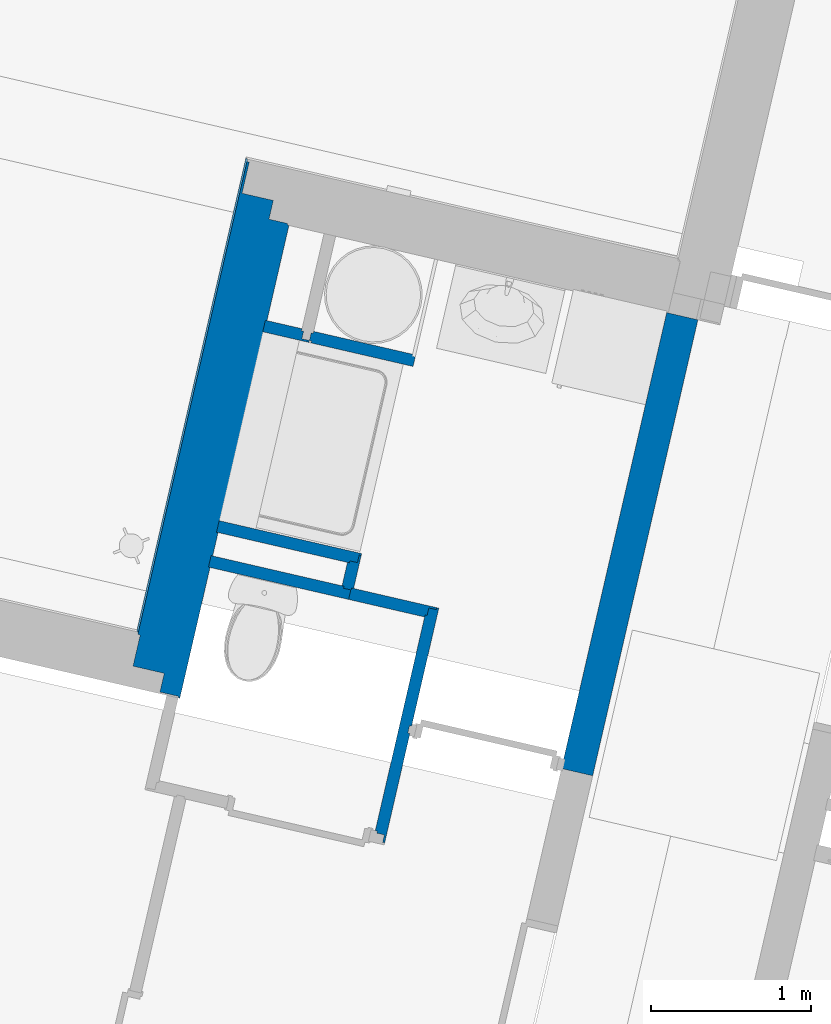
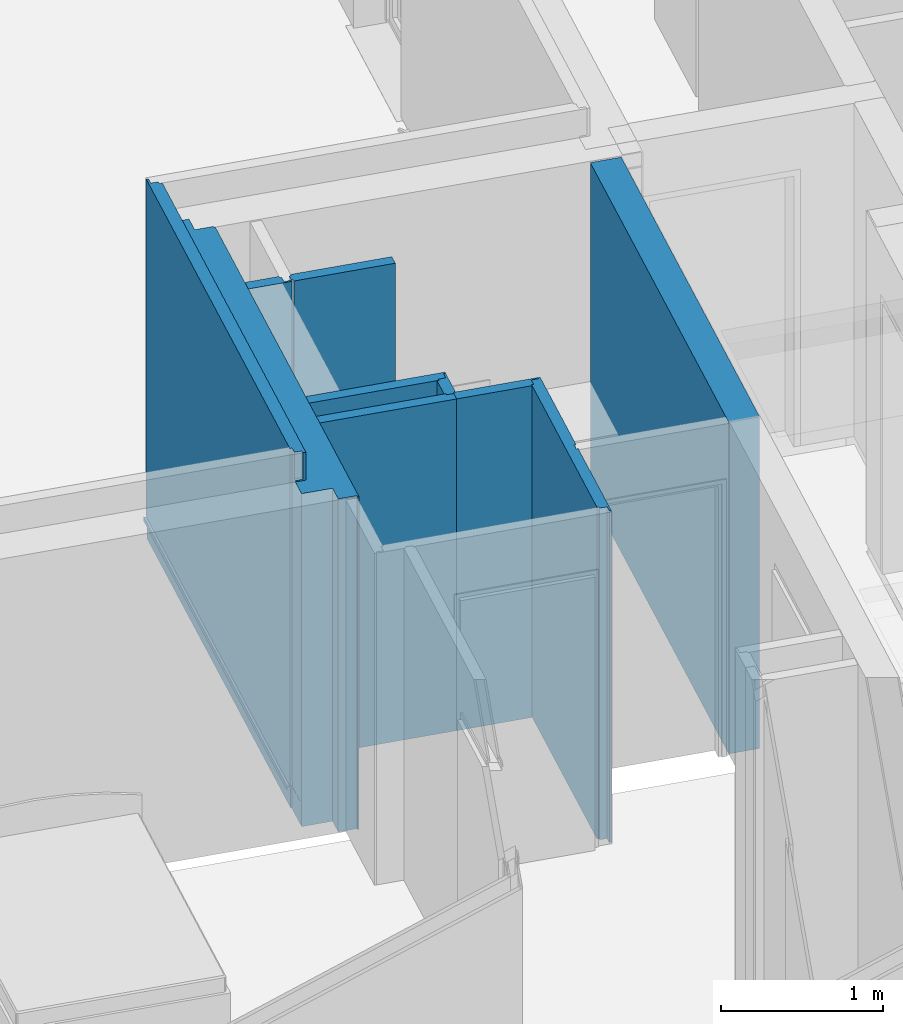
# One storey, part 51 of 119: 9 walls.
"""IFC2X3 building model written with IfcOpenShell, lengths in metres."""

from ifc_helpers import new_model, entity, si_unit, converted_unit, derived_unit, money_unit, direction, frame, origin_with_axes, place, context, subcontext, project, spatial, faceted_brep, material, material_list, type_object, element, save


model = new_model("IFC2X3")

# Units and contexts
model_context = context("Model", 3, precision=1e-05, world=origin_with_axes(), true_north=direction((0.0, 1.0)))
body_context = subcontext(model_context, "Body", "Model", "MODEL_VIEW")
ifc_project = project(units=[si_unit("LENGTHUNIT", "METRE"), si_unit("AREAUNIT", "SQUARE_METRE"), si_unit("VOLUMEUNIT", "CUBIC_METRE"), converted_unit("PLANEANGLEUNIT", "DEGREE", entity("IfcPlaneAngleMeasure", 0.0174532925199), si_unit("PLANEANGLEUNIT", "RADIAN"), dimensions=[0, 0, 0, 0, 0, 0, 0]), si_unit("SOLIDANGLEUNIT", "STERADIAN"), money_unit("EUR"), converted_unit("TIMEUNIT", "Year", entity("IfcTimeMeasure", 31556926.0), si_unit("TIMEUNIT", "SECOND"), dimensions=[0, 0, 1, 0, 0, 0, 0]), si_unit("MASSUNIT", "GRAM", prefix="KILO"), si_unit("THERMODYNAMICTEMPERATUREUNIT", "DEGREE_CELSIUS"), si_unit("LUMINOUSINTENSITYUNIT", "LUMEN"), si_unit("ENERGYUNIT", "JOULE", prefix="MEGA"), derived_unit("THERMALCONDUCTANCEUNIT", [(si_unit("POWERUNIT", "WATT"), 1), (si_unit("LENGTHUNIT", "METRE"), -1), (si_unit("THERMODYNAMICTEMPERATUREUNIT", "KELVIN"), -1)]), derived_unit("SPECIFICHEATCAPACITYUNIT", [(si_unit("ENERGYUNIT", "JOULE"), 1), (si_unit("MASSUNIT", "GRAM", prefix="KILO"), -1), (si_unit("THERMODYNAMICTEMPERATUREUNIT", "KELVIN"), -1)]), derived_unit("MASSDENSITYUNIT", [(si_unit("MASSUNIT", "GRAM", prefix="KILO"), 1), (si_unit("VOLUMEUNIT", "CUBIC_METRE"), -1)])], contexts=[model_context])

# Site, building, storey
site_placement = place(None, origin_with_axes())
site = spatial("IfcSite", under=ifc_project, at=site_placement, Name="Site", CompositionType="ELEMENT")
building_placement = place(site_placement, origin_with_axes())
building = spatial("IfcBuilding", under=site, at=building_placement, Name="Bâtiment", CompositionType="ELEMENT")
storey_placement = place(building_placement, origin_with_axes())
storey = spatial("IfcBuildingStorey", under=building, at=storey_placement, Name="Rez-de-chaussée", CompositionType="ELEMENT", Elevation=0.0)

# Walls
ifc_material_1 = material(Name="Finition int - Plaque de plâtre")
ifc_material_2 = material(Name="Isolation - Laine de roche")
ifc_material_list_1 = material_list([ifc_material_1, ifc_material_2, ifc_material_1])
wall_type_1 = type_object("IfcWallType", Name="3 - Cloison 72mm Placostil 74", PredefinedType="USERDEFINED")
wall_1_placement = place(storey_placement, frame((-9.85394506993, 11.1302860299, 0.0), z_axis=(0.0, 0.0, 1.0), x_axis=(-0.974387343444, 0.224876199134, 0.0)))
element("IfcWall", 1, at=wall_1_placement, inside=storey, type_object=wall_type_1, material=ifc_material_list_1, Name="Cloison Placostil 72/48", ObjectType="PARTITIONING", context=body_context, shape_type="Brep", body=[
    faceted_brep([(0.0, -0.013, 0.0), (0.654000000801, -0.013, 0.0), (0.654000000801, -0.0130000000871, 2.5), (0.0, -0.0130000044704, 2.5), (0.0, 0.0, 0.0), (0.654000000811, 0.0, 0.0), (0.654000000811, 0.0, 2.5), (0.0, 4.47035475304e-09, 2.5), (0.0, 4.47035475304e-09, 1.0)], [[[0, 1, 2, 3]], [[4, 5, 1, 0]], [[5, 6, 2, 1]], [[3, 2, 6, 7]], [[4, 0, 3, 7, 8]], [[7, 6, 5, 4, 8]]]),
    faceted_brep([(0.0, -0.061, 0.0), (0.667000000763, -0.061, 0.0), (0.667000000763, -0.0609999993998, 2.5), (0.0, -0.0609999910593, 2.5), (0.0, -0.013, 0.0), (0.667000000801, -0.013, 0.0), (0.667000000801, -0.013, 2.5), (0.0, -0.0130000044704, 2.5)], [[[0, 1, 2, 3]], [[4, 5, 1, 0]], [[5, 6, 2, 1]], [[3, 2, 6, 7]], [[4, 0, 3, 7]], [[7, 6, 5, 4]]]),
    faceted_brep([(0.0, -0.0609999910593, 2.5), (0.0, -0.0609999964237, 1.0), (0.0, -0.074, 1.0), (0.0, -0.074, 2.5), (0.0199999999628, -0.061, 0.0), (0.0199999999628, -0.0609999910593, 1.0), (0.654000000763, -0.0609999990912, 2.5), (0.654000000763, -0.061, 0.0), (0.0199999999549, -0.074, 1.0), (0.0199999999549, -0.074, 0.0), (0.654000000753, -0.074, 0.0), (0.654000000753, -0.074, 2.5)], [[[0, 1, 2, 3]], [[4, 5, 1, 0, 6, 7]], [[5, 8, 2, 1]], [[2, 8, 9, 10, 11, 3]], [[3, 11, 6, 0]], [[4, 9, 8, 5]], [[7, 6, 11, 10]], [[10, 9, 4, 7]]]),
])
wall_2_placement = place(storey_placement, frame((-9.69303099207, 9.6218678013, 0.0), z_axis=(0.0, 0.0, 1.0), x_axis=(-0.224876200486, -0.974387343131, 0.0)))
element("IfcWall", 2, at=wall_2_placement, inside=storey, type_object=wall_type_1, material=ifc_material_list_1, Name="Cloison Placostil 72/48", ObjectType="PARTITIONING", context=body_context, shape_type="Brep", body=[
    faceted_brep([(0.756000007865, -0.013, 2.5), (0.75600000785, 0.0, 2.5), (0.0, 0.0, 2.5), (1.65902847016e-10, -0.013, 2.5), (0.756000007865, -0.013, 0.0), (0.75600000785, 0.0, 0.0), (0.0, 0.0, 0.0), (1.65902847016e-10, -0.013, 0.0)], [[[0, 1, 2, 3]], [[1, 0, 4, 5]], [[1, 5, 6, 2]], [[7, 3, 2, 6]], [[4, 0, 3, 7]], [[5, 4, 7, 6]]]),
    faceted_brep([(1.50400001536, -0.013, 2.5), (1.50400001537, 0.0, 2.5), (0.80400000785, 0.0, 2.5), (0.804000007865, -0.013, 2.5), (1.50400001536, -0.013, 0.0), (1.50400001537, 0.0, 0.0), (0.80400000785, 0.0, 0.0), (0.804000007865, -0.013, 0.0)], [[[0, 1, 2, 3]], [[1, 0, 4, 5]], [[1, 5, 6, 2]], [[7, 3, 2, 6]], [[4, 0, 3, 7]], [[5, 4, 7, 6]]]),
    faceted_brep([(1.45600001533, -0.061, 2.5), (1.45600001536, -0.013, 2.5), (0.0130000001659, -0.013, 2.5), (0.0130000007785, -0.061, 2.5), (1.45600001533, -0.061, 0.0), (1.45600001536, -0.013, 0.0), (0.0130000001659, -0.013, 0.0), (0.0130000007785, -0.061, 0.0)], [[[0, 1, 2, 3]], [[1, 0, 4, 5]], [[1, 5, 6, 2]], [[7, 3, 2, 6]], [[4, 0, 3, 7]], [[5, 4, 7, 6]]]),
    faceted_brep([(1.44300001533, -0.074, 2.5), (1.44300001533, -0.061, 2.5), (0.0610000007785, -0.061, 2.5), (0.0610000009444, -0.074, 2.5), (1.44300001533, -0.074, 0.0), (1.44300001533, -0.061, 0.0), (0.0610000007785, -0.061, 0.0), (0.0610000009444, -0.074, 0.0)], [[[0, 1, 2, 3]], [[1, 0, 4, 5]], [[1, 5, 6, 2]], [[7, 3, 2, 6]], [[4, 0, 3, 7]], [[5, 4, 7, 6]]]),
])
wall_3_placement = place(storey_placement, frame((-10.2396622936, 9.74802334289, 0.0), z_axis=(0.0, 0.0, 1.0), x_axis=(0.974387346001, -0.224876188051, 0.0)))
element("IfcWall", 3, at=wall_3_placement, inside=storey, type_object=wall_type_1, material=ifc_material_list_1, Name="Cloison Placostil 72/48", ObjectType="PARTITIONING", context=body_context, shape_type="Brep", body=[
    faceted_brep([(0.548000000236, -0.013, 2.5), (0.548000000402, 0.0, 2.5), (0.00200000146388, 0.0, 2.5), (0.00200000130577, -0.013, 2.5), (0.548000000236, -0.013, 0.0), (0.548000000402, 0.0, 0.0), (0.00200000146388, 0.0, 0.0), (0.00200000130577, -0.013, 0.0)], [[[0, 1, 2, 3]], [[1, 0, 4, 5]], [[1, 5, 6, 2]], [[7, 3, 2, 6]], [[4, 0, 3, 7]], [[5, 4, 7, 6]]]),
    faceted_brep([(0.499999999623, -0.061, 2.5), (0.500000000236, -0.013, 2.5), (0.0, -0.013, 2.5), (0.0, -0.061, 2.5), (0.499999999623, -0.061, 0.0), (0.500000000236, -0.013, 0.0), (0.0, -0.013, 0.0), (0.0, -0.061, 0.0)], [[[0, 1, 2, 3]], [[1, 0, 4, 5]], [[1, 5, 6, 2]], [[7, 3, 2, 6]], [[4, 0, 3, 7]], [[5, 4, 7, 6]]]),
    faceted_brep([(0.486999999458, -0.074, 2.5), (0.486999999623, -0.061, 2.5), (0.0, -0.061, 2.5), (0.0, -0.074, 2.5), (0.486999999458, -0.074, 0.0), (0.486999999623, -0.061, 0.0), (0.0, -0.061, 0.0), (0.0, -0.074, 0.0)], [[[0, 1, 2, 3]], [[1, 0, 4, 5]], [[1, 5, 6, 2]], [[7, 3, 2, 6]], [[4, 0, 3, 7]], [[5, 4, 7, 6]]]),
])
ifc_material_3 = material(Name="Finition int - Enduit plâtre")
ifc_material_4 = material(Name="Béton")
ifc_material_list_2 = material_list([ifc_material_3, ifc_material_4, ifc_material_3])
wall_type_2 = type_object("IfcWallType", Name="2 - Murs Béton 18 + Enduit 2 Faces 200", PredefinedType="USERDEFINED")
wall_4_placement = place(storey_placement, frame((-8.26065721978, 11.4645550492, 0.0), z_axis=(0.0, 0.0, 1.0), x_axis=(-0.224876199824, -0.974387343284, 0.0)))
element("IfcWall", 4, at=wall_4_placement, inside=storey, type_object=wall_type_2, material=ifc_material_list_2, Name="M_Ext-009", ObjectType="SOLIDWALL", context=body_context, shape_type="Brep", body=[
    faceted_brep([(0.0, 0.19, 0.0), (2.92159791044, 0.19, 0.0), (2.92159791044, 0.18, 0.0), (0.0, 0.18, 0.0), (0.0, 0.19, 2.5), (2.92159791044, 0.19, 2.5), (2.92159791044, 0.18, 2.5), (0.0, 0.18, 2.5)], [[[0, 1, 2, 3]], [[4, 5, 1, 0]], [[2, 1, 5, 6]], [[3, 2, 6, 7]], [[4, 0, 3, 7]], [[7, 6, 5, 4]]]),
    faceted_brep([(0.0, 0.18, 0.0), (2.92159791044, 0.18, 0.0), (2.92159791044, 0.0, 0.0), (0.0, 0.0, 0.0), (0.0, 0.18, 2.5), (2.92159791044, 0.18, 2.5), (2.92159791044, 0.0, 2.5), (0.0, 0.0, 2.5)], [[[0, 1, 2, 3]], [[4, 5, 1, 0]], [[2, 1, 5, 6]], [[3, 2, 6, 7]], [[4, 0, 3, 7]], [[7, 6, 5, 4]]]),
    faceted_brep([(0.0, 0.0, 0.0), (2.92159791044, 0.0, 0.0), (2.92159791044, -0.01, 0.0), (0.0, -0.01, 0.0), (0.0, 0.0, 2.5), (2.92159791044, 0.0, 2.5), (2.92159791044, -0.01, 2.5), (0.0, -0.01, 2.5)], [[[0, 1, 2, 3]], [[4, 5, 1, 0]], [[2, 1, 5, 6]], [[3, 2, 6, 7]], [[4, 0, 3, 7]], [[7, 6, 5, 4]]]),
])
wall_type_3 = type_object("IfcWallType", Name="3 - Cloison Gaine Technique 72mm 74", PredefinedType="USERDEFINED")
wall_5_placement = place(storey_placement, frame((-10.4911943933, 11.2773550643, 0.0), z_axis=(0.0, 0.0, 1.0), x_axis=(-0.974387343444, 0.224876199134, 0.0)))
element("IfcWall", 5, at=wall_5_placement, inside=storey, type_object=wall_type_3, material=ifc_material_list_1, Name="Cloison Placostil 72/48", ObjectType="PARTITIONING", context=body_context, shape_type="Brep", body=[
    faceted_brep([(0.013, 0.0, 2.5), (0.0129999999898, -0.013, 2.5), (0.309000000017, -0.013, 2.5), (0.309000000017, 0.0, 2.5), (0.013, 0.0, 0.0), (0.0129999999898, -0.013, 0.0), (0.309000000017, -0.013, 0.0), (0.309000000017, 0.0, 0.0)], [[[0, 1, 2, 3]], [[4, 5, 1, 0]], [[1, 5, 6, 2]], [[7, 3, 2, 6]], [[4, 0, 3, 7]], [[5, 4, 7, 6]]]),
    faceted_brep([(0.0609999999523, -0.061, 2.5), (0.309000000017, -0.061, 2.5), (0.309000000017, -0.013, 2.5), (0.0609999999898, -0.013, 2.5), (0.0609999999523, -0.061, 0.0), (0.309000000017, -0.061, 0.0), (0.309000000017, -0.013, 0.0), (0.0609999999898, -0.013, 0.0)], [[[0, 1, 2, 3]], [[4, 5, 1, 0]], [[2, 1, 5, 6]], [[3, 2, 6, 7]], [[4, 0, 3, 7]], [[7, 6, 5, 4]]]),
    faceted_brep([(0.0739999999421, -0.074, 2.5), (0.309000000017, -0.074, 2.5), (0.309000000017, -0.061, 2.5), (0.0739999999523, -0.061, 2.5), (0.0739999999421, -0.074, 0.0), (0.309000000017, -0.074, 0.0), (0.309000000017, -0.061, 0.0), (0.0739999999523, -0.061, 0.0)], [[[0, 1, 2, 3]], [[4, 5, 1, 0]], [[2, 1, 5, 6]], [[3, 2, 6, 7]], [[4, 0, 3, 7]], [[7, 6, 5, 4]]]),
])
wall_6_placement = place(storey_placement, frame((-10.1747646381, 9.96252115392, 0.0), z_axis=(0.0, 0.0, 1.0), x_axis=(-0.224876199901, -0.974387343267, 0.0)))
element("IfcWall", 6, at=wall_6_placement, inside=storey, type_object=wall_type_3, material=ifc_material_list_1, Name="Cloison Placostil 72/48", ObjectType="PARTITIONING", context=body_context, shape_type="Brep", body=[
    faceted_brep([(0.223597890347, -0.013, 2.5), (0.223597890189, 0.0, 2.5), (0.013, 0.0, 2.5), (0.0129999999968, -0.013, 2.5), (0.223597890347, -0.013, 0.0), (0.223597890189, 0.0, 0.0), (0.013, 0.0, 0.0), (0.0129999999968, -0.013, 0.0)], [[[0, 1, 2, 3]], [[1, 0, 4, 5]], [[1, 5, 6, 2]], [[7, 3, 2, 6]], [[4, 0, 3, 7]], [[5, 4, 7, 6]]]),
    faceted_brep([(0.23659789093, -0.061, 2.5), (0.236597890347, -0.013, 2.5), (0.0609999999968, -0.013, 2.5), (0.0609999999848, -0.061, 2.5), (0.23659789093, -0.061, 0.0), (0.236597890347, -0.013, 0.0), (0.0609999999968, -0.013, 0.0), (0.0609999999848, -0.061, 0.0)], [[[0, 1, 2, 3]], [[1, 0, 4, 5]], [[1, 5, 6, 2]], [[7, 3, 2, 6]], [[4, 0, 3, 7]], [[5, 4, 7, 6]]]),
    faceted_brep([(0.223597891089, -0.074, 2.5), (0.22359789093, -0.061, 2.5), (0.0739999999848, -0.061, 2.5), (0.0739999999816, -0.074, 2.5), (0.223597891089, -0.074, 0.0), (0.22359789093, -0.061, 0.0), (0.0739999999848, -0.061, 0.0), (0.0739999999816, -0.074, 0.0)], [[[0, 1, 2, 3]], [[1, 0, 4, 5]], [[1, 5, 6, 2]], [[7, 3, 2, 6]], [[4, 0, 3, 7]], [[5, 4, 7, 6]]]),
])
wall_7_placement = place(storey_placement, frame((-11.0643802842, 10.1678331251, 0.0), z_axis=(0.0, 0.0, 1.0), x_axis=(0.97438734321, -0.224876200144, 0.0)))
element("IfcWall", 7, at=wall_7_placement, inside=storey, type_object=wall_type_3, material=ifc_material_list_1, Name="Cloison Placostil 72/48", ObjectType="PARTITIONING", context=body_context, shape_type="Brep", body=[
    faceted_brep([(0.913000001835, -0.013, 2.5), (0.913000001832, 0.0, 2.5), (0.0, 0.0, 2.5), (0.0, -0.013, 2.5), (0.913000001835, -0.013, 0.0), (0.913000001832, 0.0, 0.0), (0.0, 0.0, 0.0), (0.0, -0.013, 0.0)], [[[0, 1, 2, 3]], [[1, 0, 4, 5]], [[1, 5, 6, 2]], [[7, 3, 2, 6]], [[4, 0, 3, 7]], [[5, 4, 7, 6]]]),
    faceted_brep([(0.900000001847, -0.061, 2.5), (0.900000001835, -0.013, 2.5), (0.0, -0.013, 2.5), (0.0, -0.061, 2.5), (0.900000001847, -0.061, 0.0), (0.900000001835, -0.013, 0.0), (0.0, -0.013, 0.0), (0.0, -0.061, 0.0)], [[[0, 1, 2, 3]], [[1, 0, 4, 5]], [[1, 5, 6, 2]], [[7, 3, 2, 6]], [[4, 0, 3, 7]], [[5, 4, 7, 6]]]),
    faceted_brep([(0.85200000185, -0.074, 2.5), (0.852000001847, -0.061, 2.5), (0.0, -0.061, 2.5), (0.0, -0.074, 2.5), (0.85200000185, -0.074, 0.0), (0.852000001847, -0.061, 0.0), (0.0, -0.061, 0.0), (0.0, -0.074, 0.0)], [[[0, 1, 2, 3]], [[1, 0, 4, 5]], [[1, 5, 6, 2]], [[7, 3, 2, 6]], [[4, 0, 3, 7]], [[5, 4, 7, 6]]]),
])
wall_8_placement = place(storey_placement, frame((-11.1146621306, 9.94996215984, 0.0), z_axis=(0.0, 0.0, 1.0), x_axis=(0.974387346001, -0.224876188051, 0.0)))
element("IfcWall", 8, at=wall_8_placement, inside=storey, type_object=wall_type_3, material=ifc_material_list_1, Name="Cloison Placostil 72/48", ObjectType="PARTITIONING", context=body_context, shape_type="Brep", body=[
    faceted_brep([(0.0, -0.013, 2.5), (0.89800000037, -0.013, 2.5), (0.89800000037, 0.0, 2.5), (0.0, 0.0, 2.5), (0.0, -0.013, 0.0), (0.89800000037, -0.013, 0.0), (0.89800000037, 0.0, 0.0), (0.0, 0.0, 0.0)], [[[0, 1, 2, 3]], [[4, 5, 1, 0]], [[2, 1, 5, 6]], [[3, 2, 6, 7]], [[4, 0, 3, 7]], [[7, 6, 5, 4]]]),
    faceted_brep([(0.0, -0.061, 2.5), (0.89800000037, -0.061, 2.5), (0.89800000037, -0.013, 2.5), (0.0, -0.013, 2.5), (0.0, -0.061, 0.0), (0.89800000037, -0.061, 0.0), (0.89800000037, -0.013, 0.0), (0.0, -0.013, 0.0)], [[[0, 1, 2, 3]], [[4, 5, 1, 0]], [[2, 1, 5, 6]], [[3, 2, 6, 7]], [[4, 0, 3, 7]], [[7, 6, 5, 4]]]),
    faceted_brep([(0.0, -0.074, 2.5), (0.89800000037, -0.074, 2.5), (0.89800000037, -0.061, 2.5), (0.0, -0.061, 2.5), (0.0, -0.074, 0.0), (0.89800000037, -0.074, 0.0), (0.89800000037, -0.061, 0.0), (0.0, -0.061, 0.0)], [[[0, 1, 2, 3]], [[4, 5, 1, 0]], [[2, 1, 5, 6]], [[3, 2, 6, 7]], [[4, 0, 3, 7]], [[7, 6, 5, 4]]]),
])
ifc_material_5 = material(Name="Isolation - Polystyrène extrudé")
ifc_material_6 = material(Name="Bloc ELITHERM")
ifc_material_7 = material(Name="Isolation - Polystyrène expansé")
ifc_material_8 = material(Name="Mortier")
ifc_material_9 = material(Name="Béton cellulaire")
ifc_material_10 = material(Name="Etanchéité - Bitume")
ifc_material_11 = material(Name="Finition ext - Crépis")
ifc_material_12 = material(Name="Métal - Aluminium")
ifc_material_list_3 = material_list([ifc_material_1, ifc_material_5, ifc_material_6, ifc_material_7, ifc_material_8, ifc_material_9, ifc_material_10, ifc_material_11, ifc_material_12])
wall_type_4 = type_object("IfcWallType", Name="Mur ALKERN + planelle 21 TERRASSE RDC 356 x 2720", PredefinedType="USERDEFINED")
wall_9_placement = place(storey_placement, frame((-10.8985449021, 12.4428088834, 0.0), z_axis=(0.0, 0.0, 1.0), x_axis=(-0.22487619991, -0.974387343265, 0.0)))
element("IfcWall", 9, at=wall_9_placement, inside=storey, type_object=wall_type_4, material=ifc_material_list_3, Name="Mue bloc ALKERN isolé", ObjectType="SOLIDWALL", context=body_context, shape_type="Brep", body=[
    faceted_brep([(3.39000001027, 0.350000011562, 2.50955002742), (0.359999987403, 0.350000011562, 2.50955001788), (0.359999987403, 0.350000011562, 0.207793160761), (0.359999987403, 0.350000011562, 0.176532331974), (0.359999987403, 0.350000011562, 0.169414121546), (0.359999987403, 0.350000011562, 0.160000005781), (0.359999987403, 0.350000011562, 0.133633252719), (0.359999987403, 0.350000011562, 0.0), (3.39000001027, 0.350000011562, 0.0), (2.2540000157, 0.350000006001, 2.2), (1.04400001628, 0.350000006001, 2.2), (1.04400001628, 0.350000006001, 2.5), (2.2540000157, 0.350000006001, 2.5), (3.39000001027, 0.359999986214, 2.50955002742), (0.359999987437, 0.359999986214, 2.50955001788), (0.359999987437, 0.359999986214, 0.207793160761), (0.359999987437, 0.359999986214, 0.176532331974), (0.359999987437, 0.359999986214, 0.169414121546), (0.359999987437, 0.359999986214, 0.160000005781), (0.359999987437, 0.359999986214, 0.133633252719), (0.359999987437, 0.359999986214, 0.0), (3.39000001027, 0.359999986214, 0.0), (2.2540000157, 0.359999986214, 2.2), (1.04400001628, 0.359999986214, 2.2), (1.04400001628, 0.359999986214, 2.5), (2.2540000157, 0.359999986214, 2.5)], [[[0, 1, 2, 3, 4, 5, 6, 7, 8], [9, 10, 11, 12]], [[13, 14, 1, 0]], [[2, 1, 14, 15]], [[3, 2, 15, 16]], [[4, 3, 16, 17]], [[18, 5, 4, 17]], [[19, 6, 5, 18]], [[19, 20, 7, 6]], [[8, 7, 20, 21]], [[13, 0, 8, 21]], [[22, 23, 10, 9]], [[23, 24, 11, 10]], [[24, 25, 12, 11]], [[25, 22, 9, 12]], [[16, 15, 14, 13, 21, 20, 19, 18, 17], [22, 25, 24, 23]]]),
    faceted_brep([(0.350000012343, 0.22999997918, 2.50955001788), (3.38000001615, 0.22999997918, 2.50955001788), (3.38000001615, 0.350000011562, 2.50955001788), (0.350000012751, 0.350000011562, 2.50955001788), (3.38000001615, 0.22999997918, 0.176532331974), (3.38000001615, 0.22999997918, 0.207793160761), (0.350000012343, 0.22999997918, 0.207793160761), (0.350000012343, 0.22999997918, 0.176532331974), (0.350000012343, 0.22999997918, 0.169414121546), (0.350000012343, 0.22999997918, 0.160000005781), (0.350000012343, 0.22999997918, 0.133633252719), (0.350000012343, 0.22999997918, 0.0), (3.38000001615, 0.22999997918, 0.0), (3.38000001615, 0.22999997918, 0.133633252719), (3.38000001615, 0.22999997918, 0.160000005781), (3.38000001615, 0.22999997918, 0.169414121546), (3.38000001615, 0.350000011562, 0.207793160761), (3.38000001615, 0.350000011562, 0.176532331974), (3.38000001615, 0.350000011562, 0.169414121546), (3.38000001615, 0.350000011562, 0.160000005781), (3.38000001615, 0.350000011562, 0.133633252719), (3.38000001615, 0.350000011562, 0.0), (0.350000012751, 0.350000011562, 0.0), (0.350000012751, 0.350000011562, 0.133633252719), (0.350000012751, 0.350000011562, 0.160000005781), (0.350000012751, 0.350000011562, 0.169414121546), (0.350000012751, 0.350000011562, 0.176532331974), (0.350000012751, 0.350000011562, 0.207793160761)], [[[0, 1, 2, 3]], [[4, 5, 1, 0, 6, 7, 8, 9, 10, 11, 12, 13, 14, 15]], [[5, 16, 2, 1]], [[3, 2, 16, 17, 18, 19, 20, 21, 22, 23, 24, 25, 26, 27]], [[27, 6, 0, 3]], [[17, 16, 5, 4]], [[26, 7, 6, 27]], [[25, 8, 7, 26]], [[25, 24, 9, 8]], [[24, 23, 10, 9]], [[10, 23, 22, 11]], [[22, 21, 12, 11]], [[13, 12, 21, 20]], [[13, 20, 19, 14]], [[14, 19, 18, 15]], [[18, 17, 4, 15]]]),
    faceted_brep([(3.25999998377, 0.0979999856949, 2.50955001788), (3.25999998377, 0.229999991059, 2.50955001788), (0.22999999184, 0.229999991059, 2.50955001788), (0.229999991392, 0.0979999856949, 2.50955001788), (3.25999998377, 0.229999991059, 0.207793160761), (3.25999998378, 0.03, 2.50955001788), (3.25999998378, 0.03, 0.207793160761), (3.25999998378, 0.0310453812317, 0.207793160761), (3.25999998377, 0.229999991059, 0.176532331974), (3.25999998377, 0.229999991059, 0.169414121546), (3.25999998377, 0.229999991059, 0.160000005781), (3.25999998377, 0.229999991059, 0.133633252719), (3.25999998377, 0.229999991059, 0.0), (0.22999999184, 0.229999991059, 0.0), (0.22999999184, 0.229999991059, 0.133633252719), (0.22999999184, 0.229999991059, 0.160000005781), (0.22999999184, 0.229999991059, 0.169414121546), (0.22999999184, 0.229999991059, 0.176532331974), (0.22999999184, 0.229999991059, 0.207793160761), (0.229999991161, 0.03, 0.207793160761), (0.229999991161, 0.03, 2.50955001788), (0.229999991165, 0.0310453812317, 0.207793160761), (3.25999998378, 0.0310453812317, 0.176532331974), (3.25999998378, 0.0310453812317, 0.16972779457), (3.25999998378, 0.03, 0.169414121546), (3.25999998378, 0.0300000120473, 0.160000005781), (3.25999998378, 0.03, 0.133633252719), (3.25999998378, 0.03, 0.0), (0.229999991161, 0.03, 0.0), (0.229999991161, 0.03, 0.133633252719), (0.229999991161, 0.0300000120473, 0.160000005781), (0.229999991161, 0.03, 0.169414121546), (0.229999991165, 0.0310453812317, 0.169727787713), (0.229999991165, 0.0310453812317, 0.176532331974)], [[[0, 1, 2, 3]], [[4, 1, 0, 5, 6, 7]], [[1, 4, 8, 9, 10, 11, 12, 13, 14, 15, 16, 17, 18, 2]], [[19, 20, 3, 2, 18, 21]], [[5, 0, 3, 20]], [[6, 5, 20, 19]], [[7, 6, 19, 21]], [[4, 7, 22, 8]], [[22, 23, 24, 9, 8]], [[10, 9, 24, 25]], [[11, 10, 25, 26]], [[27, 12, 11, 26]], [[12, 27, 28, 13]], [[29, 14, 13, 28]], [[15, 14, 29, 30]], [[16, 15, 30, 31]], [[32, 33, 17, 16, 31]], [[17, 33, 21, 18]], [[21, 33, 32, 23, 22, 7]], [[31, 24, 23, 32]], [[30, 25, 24, 31]], [[26, 25, 30, 29, 28, 27]]]),
    faceted_brep([(3.12800002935, 0.0980000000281, 2.51999998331), (0.098000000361, 0.0980000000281, 2.51999999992), (0.098000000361, 0.0980000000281, 2.72), (3.12800002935, 0.0980000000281, 2.72), (3.12800002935, 0.0780000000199, 2.51999998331), (0.098000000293, 0.0780000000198, 2.51999999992), (0.098000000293, 0.0780000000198, 2.72), (3.12800002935, 0.0780000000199, 2.72)], [[[0, 1, 2, 3]], [[4, 5, 1, 0]], [[5, 6, 2, 1]], [[3, 2, 6, 7]], [[7, 4, 0, 3]], [[7, 6, 5, 4]]]),
    faceted_brep([(0.0980000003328, 0.098, 2.50955), (0.0980000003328, 0.098, 2.52), (3.12800002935, 0.098, 2.51999998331), (3.12799998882, 0.098, 2.50955002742), (0.0980000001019, 0.03, 2.52), (0.0980000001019, 0.03, 2.50955), (3.12800002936, 0.03, 2.51999998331), (3.12799998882, 0.03, 2.50955002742)], [[[0, 1, 2, 3]], [[4, 1, 0, 5]], [[1, 4, 6, 2]], [[7, 3, 2, 6]], [[5, 0, 3, 7]], [[4, 5, 7, 6]]]),
    faceted_brep([(3.10800000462, 0.03, 2.72), (3.10800000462, 0.0780000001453, 2.72), (0.0780000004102, 0.0780000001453, 2.72), (0.0780000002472, 0.03, 2.72), (3.10800000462, 0.0780000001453, 2.51999999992), (3.10800000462, 0.03, 2.51999999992), (0.0780000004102, 0.0780000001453, 2.51999999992), (0.0780000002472, 0.03, 2.51999999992)], [[[0, 1, 2, 3]], [[4, 1, 0, 5]], [[1, 4, 6, 2]], [[3, 2, 6, 7]], [[5, 0, 3, 7]], [[4, 5, 7, 6]]]),
    faceted_brep([(0.0301630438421, 0.0300000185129, 0.01), (0.0300000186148, 0.0300000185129, 0.01), (0.0300000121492, 0.0300000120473, 0.133633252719), (0.0300000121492, 0.0300000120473, 0.160000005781), (3.06000001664, 0.0300000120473, 0.160000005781), (3.06000001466, 0.0300000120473, 0.133633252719), (3.06000002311, 0.0300000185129, 0.01), (3.03000000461, 0.0300000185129, 0.01), (0.0300000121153, 0.02, 0.01), (0.0301630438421, 0.02, 0.01), (0.0300000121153, 0.02, 0.133633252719), (0.0300000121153, 0.02, 0.160000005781), (3.06000001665, 0.02, 0.160000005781), (3.06000001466, 0.02, 0.133633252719), (3.06000002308, 0.02, 0.01), (3.03000000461, 0.02, 0.01)], [[[0, 1, 2, 3, 4, 5, 6, 7]], [[8, 1, 0, 9]], [[1, 8, 10, 2]], [[11, 3, 2, 10]], [[12, 4, 3, 11]], [[5, 4, 12, 13]], [[14, 6, 5, 13]], [[15, 7, 6, 14]], [[9, 0, 7, 15]], [[8, 9, 15, 14, 13, 12, 11, 10]]]),
    faceted_brep([(0.0299999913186, 0.0150000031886, 2.72), (3.0600000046, 0.0150000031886, 2.72), (3.0600000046, 0.0299999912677, 2.72), (0.0299999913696, 0.0299999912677, 2.72), (3.0600000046, 0.0150000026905, 0.207793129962), (0.0300000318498, 0.0150000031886, 0.176532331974), (3.0600000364, 0.0150000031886, 0.176532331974), (3.0600000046, 0.0300000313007, 0.207793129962), (3.0600000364, 0.0300000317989, 0.176532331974), (0.0300000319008, 0.0300000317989, 0.176532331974)], [[[0, 1, 2, 3]], [[4, 1, 0, 5, 6]], [[7, 2, 1, 4]], [[3, 2, 7, 8, 9]], [[5, 0, 3, 9]], [[9, 8, 6, 5]], [[8, 7, 4, 6]]]),
    faceted_brep([(3.06104538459, 0.03, 0.207793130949), (3.06104538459, 0.0310453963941, 0.207793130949), (0.0310453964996, 0.0310453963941, 0.207793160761), (0.031045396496, 0.03, 0.207793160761), (3.06104538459, 0.0310453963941, 0.176532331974), (3.06104538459, 0.0300000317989, 0.176532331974), (3.06104538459, 0.0310453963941, 0.169727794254), (0.0310453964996, 0.0310453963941, 0.169727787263), (0.0310453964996, 0.0310453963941, 0.176532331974), (0.031045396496, 0.0300000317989, 0.176532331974), (3.06104538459, 0.03, 0.17077486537), (3.06104538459, 0.0264705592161, 0.169727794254), (3.0600000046, 0.03, 0.169414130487), (0.0299999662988, 0.03, 0.169414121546), (0.031045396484, 0.0264705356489, 0.169727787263), (0.031045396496, 0.03, 0.170774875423), (0.0299999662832, 0.0254132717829, 0.169414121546), (0.00839011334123, 0.0035607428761, 0.162931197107), (3.03839013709, 0.0035607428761, 0.162931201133), (3.0600000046, 0.0254132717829, 0.169414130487), (3.03479484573, 0.00479482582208, 0.161852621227), (0.00479482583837, 0.00479482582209, 0.161852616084), (0.00479482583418, 0.0035607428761, 0.161852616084), (3.03479484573, 0.0035607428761, 0.160000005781), (3.03479484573, 0.0035607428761, 0.161852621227), (0.00479482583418, 0.0035607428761, 0.160000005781), (0.00479482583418, 0.0035607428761, 0.133633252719), (3.03479484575, 0.0035607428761, 0.133633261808), (0.00479482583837, 0.00479482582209, 0.133633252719), (0.00479482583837, 0.00479482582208, 0.160000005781), (3.03479484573, 0.00479482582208, 0.160000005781), (3.03479484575, 0.00479482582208, 0.133633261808)], [[[0, 1, 2, 3]], [[4, 1, 0, 5]], [[1, 4, 6, 7, 8, 2]], [[2, 8, 9, 3]], [[5, 0, 3, 9]], [[4, 5, 10, 11, 6]], [[7, 6, 12, 13]], [[7, 14, 15, 9, 8]], [[15, 10, 5, 9]], [[14, 16, 17, 18, 19, 11, 10, 15]], [[19, 12, 6, 11]], [[13, 12, 20, 21]], [[7, 13, 16, 14]], [[21, 22, 17, 16, 13]], [[23, 24, 18, 17, 22, 25, 26, 27]], [[12, 19, 18, 24, 20]], [[28, 29, 21, 20, 30, 31]], [[22, 21, 29, 25]], [[23, 30, 20, 24]], [[26, 25, 29, 28]], [[26, 28, 31, 27]], [[31, 30, 23, 27]]]),
])

save(model, "model.ifc")
